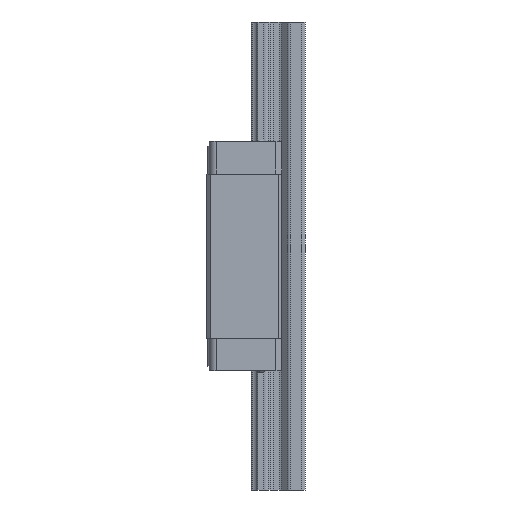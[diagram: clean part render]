
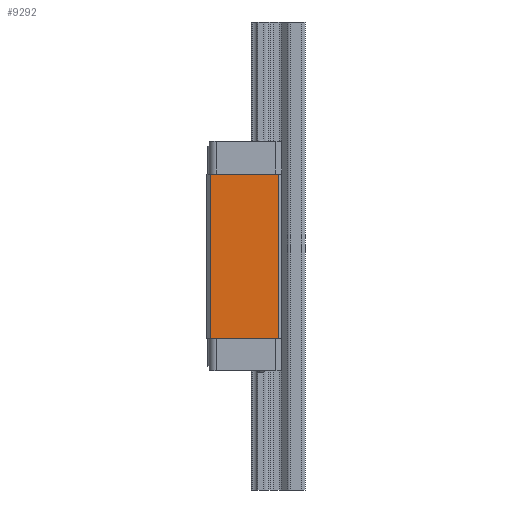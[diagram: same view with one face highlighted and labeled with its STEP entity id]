
A CAD part, left-side view. The second image highlights one B-rep face of the part: STEP entity #9292.
In plain terms, the highlighted planar face has unit normal (-1, 0, 0).
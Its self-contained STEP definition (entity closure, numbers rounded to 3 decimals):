
#165 = DIRECTION ( 'NONE',  ( 0., 0., 1. ) ) ;
#539 = AXIS2_PLACEMENT_3D ( 'NONE', #13543, #7958, #165 ) ;
#1200 = CARTESIAN_POINT ( 'NONE',  ( -30., -11.7, -70.1 ) ) ;
#1461 = LINE ( 'NONE', #13739, #7030 ) ;
#1811 = DIRECTION ( 'NONE',  ( 0., 0., -1. ) ) ;
#2178 = EDGE_CURVE ( 'NONE', #8822, #14106, #13126, .T. ) ;
#2849 = LINE ( 'NONE', #10597, #4677 ) ;
#2902 = VECTOR ( 'NONE', #1811, 1000. ) ;
#2990 = CARTESIAN_POINT ( 'NONE',  ( -30., -11.7, 0. ) ) ;
#3471 = PLANE ( 'NONE',  #539 ) ;
#3729 = VECTOR ( 'NONE', #8978, 1000. ) ;
#4490 = ORIENTED_EDGE ( 'NONE', *, *, #2178, .T. ) ;
#4677 = VECTOR ( 'NONE', #13929, 1000. ) ;
#4979 = DIRECTION ( 'NONE',  ( 0., 1., 0. ) ) ;
#5130 = EDGE_LOOP ( 'NONE', ( #9513, #5734, #4490, #11597 ) ) ;
#5266 = EDGE_CURVE ( 'NONE', #14106, #9263, #2849, .T. ) ;
#5634 = CARTESIAN_POINT ( 'NONE',  ( -30., 17.5, 0. ) ) ;
#5734 = ORIENTED_EDGE ( 'NONE', *, *, #6484, .F. ) ;
#5865 = FACE_OUTER_BOUND ( 'NONE', #5130, .T. ) ;
#6484 = EDGE_CURVE ( 'NONE', #8822, #9870, #8497, .T. ) ;
#6961 = CARTESIAN_POINT ( 'NONE',  ( -30., 17.5, -70.1 ) ) ;
#7030 = VECTOR ( 'NONE', #4979, 1000. ) ;
#7958 = DIRECTION ( 'NONE',  ( -1., 0., 0. ) ) ;
#8497 = LINE ( 'NONE', #2990, #2902 ) ;
#8822 = VERTEX_POINT ( 'NONE', #11331 ) ;
#8978 = DIRECTION ( 'NONE',  ( 0., 1., 0. ) ) ;
#9263 = VERTEX_POINT ( 'NONE', #6961 ) ;
#9292 = ADVANCED_FACE ( 'NONE', ( #5865 ), #3471, .T. ) ;
#9513 = ORIENTED_EDGE ( 'NONE', *, *, #11227, .F. ) ;
#9870 = VERTEX_POINT ( 'NONE', #1200 ) ;
#10597 = CARTESIAN_POINT ( 'NONE',  ( -30., 17.5, 0. ) ) ;
#11227 = EDGE_CURVE ( 'NONE', #9870, #9263, #1461, .T. ) ;
#11331 = CARTESIAN_POINT ( 'NONE',  ( -30., -11.7, 0. ) ) ;
#11597 = ORIENTED_EDGE ( 'NONE', *, *, #5266, .T. ) ;
#11979 = CARTESIAN_POINT ( 'NONE',  ( -30., 0., 0. ) ) ;
#13126 = LINE ( 'NONE', #11979, #3729 ) ;
#13543 = CARTESIAN_POINT ( 'NONE',  ( -30., -11.7, 0. ) ) ;
#13739 = CARTESIAN_POINT ( 'NONE',  ( -30., 0., -70.1 ) ) ;
#13929 = DIRECTION ( 'NONE',  ( 0., 0., -1. ) ) ;
#14106 = VERTEX_POINT ( 'NONE', #5634 ) ;
